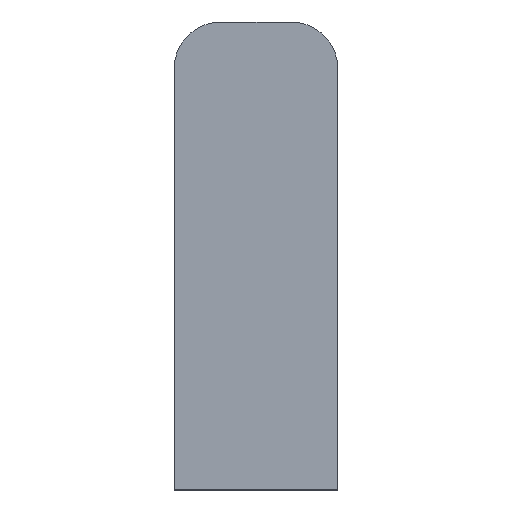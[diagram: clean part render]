
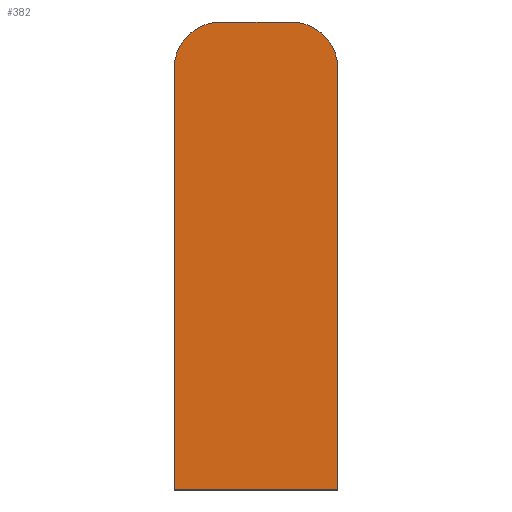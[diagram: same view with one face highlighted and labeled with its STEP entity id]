
A CAD part, front view. The second image highlights one B-rep face of the part: STEP entity #382.
In plain terms, the highlighted planar face has unit normal (0, -1, 0).
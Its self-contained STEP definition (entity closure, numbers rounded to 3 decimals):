
#5 = ORIENTED_EDGE ( 'NONE', *, *, #407, .T. ) ;
#6 = ORIENTED_EDGE ( 'NONE', *, *, #456, .T. ) ;
#7 = ORIENTED_EDGE ( 'NONE', *, *, #450, .T. ) ;
#17 = EDGE_LOOP ( 'NONE', ( #5, #100, #6, #7, #55, #45 ) ) ;
#45 = ORIENTED_EDGE ( 'NONE', *, *, #429, .T. ) ;
#55 = ORIENTED_EDGE ( 'NONE', *, *, #420, .T. ) ;
#88 = VECTOR ( 'NONE', #297, 1000. ) ;
#90 = VECTOR ( 'NONE', #310, 1000. ) ;
#94 = LINE ( 'NONE', #294, #88 ) ;
#100 = ORIENTED_EDGE ( 'NONE', *, *, #435, .T. ) ;
#101 = LINE ( 'NONE', #302, #90 ) ;
#122 = CIRCLE ( 'NONE', #402, 3. ) ;
#128 = LINE ( 'NONE', #333, #134 ) ;
#129 = CIRCLE ( 'NONE', #457, 3. ) ;
#134 = VECTOR ( 'NONE', #344, 1000. ) ;
#150 = FACE_OUTER_BOUND ( 'NONE', #17, .T. ) ;
#157 = LINE ( 'NONE', #283, #169 ) ;
#169 = VECTOR ( 'NONE', #289, 1000. ) ;
#179 = CARTESIAN_POINT ( 'NONE',  ( -5.25, 0., -16.5 ) ) ;
#183 = VERTEX_POINT ( 'NONE', #186 ) ;
#185 = VERTEX_POINT ( 'NONE', #188 ) ;
#186 = CARTESIAN_POINT ( 'NONE',  ( -2.25, 0., 13.5 ) ) ;
#188 = CARTESIAN_POINT ( 'NONE',  ( -5.25, 0., 10.5 ) ) ;
#189 = VERTEX_POINT ( 'NONE', #179 ) ;
#194 = VERTEX_POINT ( 'NONE', #212 ) ;
#199 = VERTEX_POINT ( 'NONE', #217 ) ;
#200 = VERTEX_POINT ( 'NONE', #218 ) ;
#212 = CARTESIAN_POINT ( 'NONE',  ( 5.25, 0., -16.5 ) ) ;
#217 = CARTESIAN_POINT ( 'NONE',  ( 5.25, 0., 10.5 ) ) ;
#218 = CARTESIAN_POINT ( 'NONE',  ( 2.25, 0., 13.5 ) ) ;
#224 = PLANE ( 'NONE',  #463 ) ;
#228 = CARTESIAN_POINT ( 'NONE',  ( 0., 0., -1.5 ) ) ;
#240 = DIRECTION ( 'NONE',  ( 0., 1., 0. ) ) ;
#241 = DIRECTION ( 'NONE',  ( -1., 0., 0. ) ) ;
#283 = CARTESIAN_POINT ( 'NONE',  ( 5.25, 0., -16.5 ) ) ;
#289 = DIRECTION ( 'NONE',  ( 0., 0., 1. ) ) ;
#294 = CARTESIAN_POINT ( 'NONE',  ( -5.25, 0., -16.5 ) ) ;
#297 = DIRECTION ( 'NONE',  ( 0., 0., -1. ) ) ;
#302 = CARTESIAN_POINT ( 'NONE',  ( 5.25, 0., -16.5 ) ) ;
#310 = DIRECTION ( 'NONE',  ( 1., 0., 0. ) ) ;
#320 = CARTESIAN_POINT ( 'NONE',  ( 2.25, 0., 10.5 ) ) ;
#322 = DIRECTION ( 'NONE',  ( 0., -1., 0. ) ) ;
#323 = DIRECTION ( 'NONE',  ( -1., 0., 0. ) ) ;
#328 = CARTESIAN_POINT ( 'NONE',  ( -2.25, 0., 10.5 ) ) ;
#333 = CARTESIAN_POINT ( 'NONE',  ( 2.25, 0., 13.5 ) ) ;
#336 = DIRECTION ( 'NONE',  ( 0., -1., 0. ) ) ;
#337 = DIRECTION ( 'NONE',  ( -1., 0., 0. ) ) ;
#344 = DIRECTION ( 'NONE',  ( -1., 0., 0. ) ) ;
#382 = ADVANCED_FACE ( 'NONE', ( #150 ), #224, .F. ) ;
#402 = AXIS2_PLACEMENT_3D ( 'NONE', #320, #322, #323 ) ;
#407 = EDGE_CURVE ( 'NONE', #194, #199, #157, .T. ) ;
#420 = EDGE_CURVE ( 'NONE', #185, #189, #94, .T. ) ;
#429 = EDGE_CURVE ( 'NONE', #189, #194, #101, .T. ) ;
#435 = EDGE_CURVE ( 'NONE', #199, #200, #122, .T. ) ;
#450 = EDGE_CURVE ( 'NONE', #183, #185, #129, .T. ) ;
#456 = EDGE_CURVE ( 'NONE', #200, #183, #128, .T. ) ;
#457 = AXIS2_PLACEMENT_3D ( 'NONE', #328, #336, #337 ) ;
#463 = AXIS2_PLACEMENT_3D ( 'NONE', #228, #240, #241 ) ;
